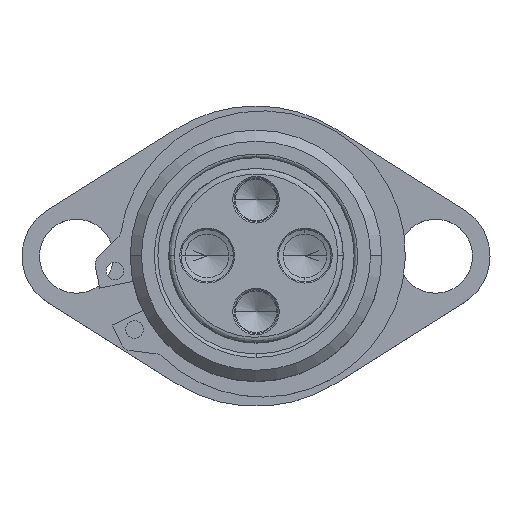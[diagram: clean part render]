
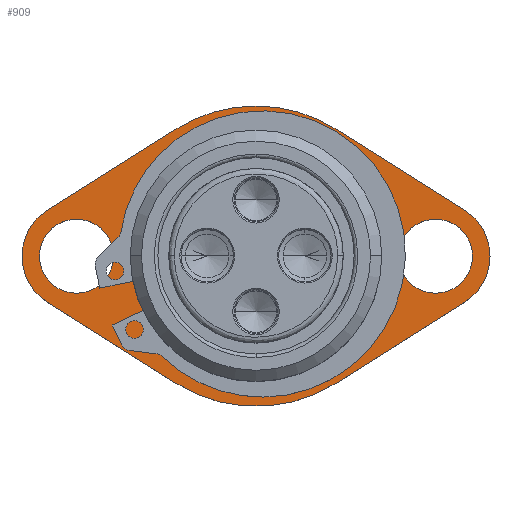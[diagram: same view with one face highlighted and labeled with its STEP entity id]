
A CAD part, top view. The second image highlights one B-rep face of the part: STEP entity #909.
In plain terms, the highlighted planar face has unit normal (0, 0, 1) as drawn and (0, 1, 0) by its records, which use the part's own axes.
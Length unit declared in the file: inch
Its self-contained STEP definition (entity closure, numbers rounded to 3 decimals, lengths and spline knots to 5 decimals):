
#22 = DIRECTION ( 'NONE',  ( 0., -1., 0. ) ) ;
#44 = VERTEX_POINT ( 'NONE', #278 ) ;
#52 = VERTEX_POINT ( 'NONE', #2459 ) ;
#103 = CARTESIAN_POINT ( 'NONE',  ( -1.4929, 0.25, -0.32997 ) ) ;
#200 = AXIS2_PLACEMENT_3D ( 'NONE', #2614, #1163, #3298 ) ;
#246 = ORIENTED_EDGE ( 'NONE', *, *, #4435, .F. ) ;
#278 = CARTESIAN_POINT ( 'NONE',  ( 1.285, 0.25, -0.265 ) ) ;
#306 = CARTESIAN_POINT ( 'NONE',  ( -1.285, 0.25, 0. ) ) ;
#320 = DIRECTION ( 'NONE',  ( 0., 0., -1. ) ) ;
#332 = DIRECTION ( 'NONE',  ( 0., -1., 0. ) ) ;
#343 = CIRCLE ( 'NONE', #709, 0.265 ) ;
#441 = EDGE_CURVE ( 'NONE', #2043, #4211, #343, .T. ) ;
#514 = AXIS2_PLACEMENT_3D ( 'NONE', #1565, #4086, #1579 ) ;
#534 = CARTESIAN_POINT ( 'NONE',  ( 0., 0.25, 0. ) ) ;
#582 = CARTESIAN_POINT ( 'NONE',  ( 0.57305, 0.25, -0.90952 ) ) ;
#588 = AXIS2_PLACEMENT_3D ( 'NONE', #2363, #3390, #3409 ) ;
#694 = CARTESIAN_POINT ( 'NONE',  ( -1.4929, 0.25, 0.32997 ) ) ;
#709 = AXIS2_PLACEMENT_3D ( 'NONE', #306, #4201, #2805 ) ;
#718 = DIRECTION ( 'NONE',  ( 0., 0., -1. ) ) ;
#826 = ORIENTED_EDGE ( 'NONE', *, *, #2512, .F. ) ;
#834 = VERTEX_POINT ( 'NONE', #694 ) ;
#848 = VERTEX_POINT ( 'NONE', #3340 ) ;
#860 = CIRCLE ( 'NONE', #514, 0.9 ) ;
#864 = CARTESIAN_POINT ( 'NONE',  ( 1.285, 0.25, 0. ) ) ;
#900 = EDGE_CURVE ( 'NONE', #2179, #3448, #3912, .T. ) ;
#909 = ADVANCED_FACE ( 'NONE', ( #4089, #2294, #1228, #1108 ), #3665, .T. ) ;
#910 = CARTESIAN_POINT ( 'NONE',  ( 1.4929, 0.25, 0.32997 ) ) ;
#961 = CIRCLE ( 'NONE', #2622, 0.39 ) ;
#1019 = LINE ( 'NONE', #3854, #2472 ) ;
#1023 = CARTESIAN_POINT ( 'NONE',  ( -1.285, 0.25, 0. ) ) ;
#1084 = CARTESIAN_POINT ( 'NONE',  ( 0., 0.25, 0. ) ) ;
#1087 = CIRCLE ( 'NONE', #4626, 0.265 ) ;
#1108 = FACE_BOUND ( 'NONE', #1866, .T. ) ;
#1141 = DIRECTION ( 'NONE',  ( 0., -1., 0. ) ) ;
#1163 = DIRECTION ( 'NONE',  ( 0., 1., 0. ) ) ;
#1190 = DIRECTION ( 'NONE',  ( 0., -1., 0. ) ) ;
#1212 = VECTOR ( 'NONE', #3900, 39.37008 ) ;
#1228 = FACE_BOUND ( 'NONE', #2970, .T. ) ;
#1284 = ORIENTED_EDGE ( 'NONE', *, *, #441, .T. ) ;
#1319 = DIRECTION ( 'NONE',  ( 0., 0., -1. ) ) ;
#1387 = CIRCLE ( 'NONE', #3337, 1.075 ) ;
#1471 = VERTEX_POINT ( 'NONE', #582 ) ;
#1478 = DIRECTION ( 'NONE',  ( 0.846, 0., -0.533 ) ) ;
#1548 = CARTESIAN_POINT ( 'NONE',  ( 0., 0.25, 0. ) ) ;
#1553 = VERTEX_POINT ( 'NONE', #2801 ) ;
#1554 = CIRCLE ( 'NONE', #2747, 1.075 ) ;
#1563 = EDGE_CURVE ( 'NONE', #834, #4071, #2426, .T. ) ;
#1565 = CARTESIAN_POINT ( 'NONE',  ( 0., 0.25, 0. ) ) ;
#1575 = LINE ( 'NONE', #3950, #1668 ) ;
#1579 = DIRECTION ( 'NONE',  ( 0., 0., -1. ) ) ;
#1588 = DIRECTION ( 'NONE',  ( 0., 0., -1. ) ) ;
#1595 = CIRCLE ( 'NONE', #2099, 0.39 ) ;
#1621 = ORIENTED_EDGE ( 'NONE', *, *, #2238, .T. ) ;
#1644 = VERTEX_POINT ( 'NONE', #1843 ) ;
#1648 = ORIENTED_EDGE ( 'NONE', *, *, #900, .T. ) ;
#1668 = VECTOR ( 'NONE', #1478, 39.37008 ) ;
#1700 = ORIENTED_EDGE ( 'NONE', *, *, #4112, .F. ) ;
#1828 = ORIENTED_EDGE ( 'NONE', *, *, #2580, .T. ) ;
#1843 = CARTESIAN_POINT ( 'NONE',  ( 0., 0.25, 0.9 ) ) ;
#1866 = EDGE_LOOP ( 'NONE', ( #3346, #1828 ) ) ;
#1899 = DIRECTION ( 'NONE',  ( 0., -1., 0. ) ) ;
#1928 = ORIENTED_EDGE ( 'NONE', *, *, #3486, .T. ) ;
#1960 = EDGE_CURVE ( 'NONE', #834, #3448, #1595, .T. ) ;
#1966 = DIRECTION ( 'NONE',  ( 0., 0., -1. ) ) ;
#2043 = VERTEX_POINT ( 'NONE', #2460 ) ;
#2048 = EDGE_LOOP ( 'NONE', ( #1284, #2109 ) ) ;
#2099 = AXIS2_PLACEMENT_3D ( 'NONE', #1023, #332, #4272 ) ;
#2109 = ORIENTED_EDGE ( 'NONE', *, *, #3451, .T. ) ;
#2122 = CARTESIAN_POINT ( 'NONE',  ( -1.4929, 0.25, -0.32997 ) ) ;
#2149 = CIRCLE ( 'NONE', #3426, 0.265 ) ;
#2160 = VERTEX_POINT ( 'NONE', #3738 ) ;
#2169 = EDGE_LOOP ( 'NONE', ( #4364, #1648, #3141, #2604, #826, #1928, #1700, #3464, #246 ) ) ;
#2179 = VERTEX_POINT ( 'NONE', #3438 ) ;
#2194 = CARTESIAN_POINT ( 'NONE',  ( -1.285, 0.25, 0.265 ) ) ;
#2208 = CARTESIAN_POINT ( 'NONE',  ( 0., 0.25, -0.9 ) ) ;
#2218 = EDGE_CURVE ( 'NONE', #3620, #1644, #860, .T. ) ;
#2238 = EDGE_CURVE ( 'NONE', #44, #1553, #2149, .T. ) ;
#2273 = DIRECTION ( 'NONE',  ( -0.846, 0., 0.533 ) ) ;
#2294 = FACE_OUTER_BOUND ( 'NONE', #2169, .T. ) ;
#2298 = DIRECTION ( 'NONE',  ( 0., 0., -1. ) ) ;
#2363 = CARTESIAN_POINT ( 'NONE',  ( 0., 0.25, 0. ) ) ;
#2389 = DIRECTION ( 'NONE',  ( -0.846, 0., -0.533 ) ) ;
#2426 = LINE ( 'NONE', #3535, #1212 ) ;
#2459 = CARTESIAN_POINT ( 'NONE',  ( 0., 0.25, -1.075 ) ) ;
#2460 = CARTESIAN_POINT ( 'NONE',  ( -1.285, 0.25, -0.265 ) ) ;
#2472 = VECTOR ( 'NONE', #2389, 39.37008 ) ;
#2512 = EDGE_CURVE ( 'NONE', #2160, #4071, #1387, .T. ) ;
#2537 = AXIS2_PLACEMENT_3D ( 'NONE', #3589, #22, #320 ) ;
#2580 = EDGE_CURVE ( 'NONE', #1644, #3620, #3234, .T. ) ;
#2604 = ORIENTED_EDGE ( 'NONE', *, *, #1563, .T. ) ;
#2614 = CARTESIAN_POINT ( 'NONE',  ( -1.285, 0.25, 0. ) ) ;
#2621 = EDGE_CURVE ( 'NONE', #2179, #52, #1554, .T. ) ;
#2622 = AXIS2_PLACEMENT_3D ( 'NONE', #4299, #3939, #718 ) ;
#2639 = EDGE_CURVE ( 'NONE', #848, #1471, #1019, .T. ) ;
#2702 = CIRCLE ( 'NONE', #3433, 1.075 ) ;
#2747 = AXIS2_PLACEMENT_3D ( 'NONE', #534, #3469, #1319 ) ;
#2801 = CARTESIAN_POINT ( 'NONE',  ( 1.285, 0.25, 0.265 ) ) ;
#2805 = DIRECTION ( 'NONE',  ( 0., 0., -1. ) ) ;
#2967 = VECTOR ( 'NONE', #2273, 39.37008 ) ;
#2970 = EDGE_LOOP ( 'NONE', ( #1621, #3751 ) ) ;
#3141 = ORIENTED_EDGE ( 'NONE', *, *, #1960, .F. ) ;
#3234 = CIRCLE ( 'NONE', #588, 0.9 ) ;
#3298 = DIRECTION ( 'NONE',  ( 0., 0., 1. ) ) ;
#3337 = AXIS2_PLACEMENT_3D ( 'NONE', #1548, #1899, #1588 ) ;
#3340 = CARTESIAN_POINT ( 'NONE',  ( 1.4929, 0.25, -0.32997 ) ) ;
#3346 = ORIENTED_EDGE ( 'NONE', *, *, #2218, .T. ) ;
#3390 = DIRECTION ( 'NONE',  ( 0., -1., 0. ) ) ;
#3409 = DIRECTION ( 'NONE',  ( 0., 0., -1. ) ) ;
#3426 = AXIS2_PLACEMENT_3D ( 'NONE', #864, #1190, #2298 ) ;
#3433 = AXIS2_PLACEMENT_3D ( 'NONE', #1084, #1141, #3583 ) ;
#3438 = CARTESIAN_POINT ( 'NONE',  ( -0.57305, 0.25, -0.90952 ) ) ;
#3448 = VERTEX_POINT ( 'NONE', #2122 ) ;
#3451 = EDGE_CURVE ( 'NONE', #4211, #2043, #4507, .T. ) ;
#3464 = ORIENTED_EDGE ( 'NONE', *, *, #2639, .T. ) ;
#3469 = DIRECTION ( 'NONE',  ( 0., -1., 0. ) ) ;
#3486 = EDGE_CURVE ( 'NONE', #2160, #4141, #1575, .T. ) ;
#3535 = CARTESIAN_POINT ( 'NONE',  ( -1.4929, 0.25, 0.32997 ) ) ;
#3583 = DIRECTION ( 'NONE',  ( 0., 0., -1. ) ) ;
#3589 = CARTESIAN_POINT ( 'NONE',  ( -1.285, 0.25, 0. ) ) ;
#3620 = VERTEX_POINT ( 'NONE', #2208 ) ;
#3665 = PLANE ( 'NONE',  #200 ) ;
#3738 = CARTESIAN_POINT ( 'NONE',  ( 0.57305, 0.25, 0.90952 ) ) ;
#3751 = ORIENTED_EDGE ( 'NONE', *, *, #4687, .T. ) ;
#3854 = CARTESIAN_POINT ( 'NONE',  ( 0.57305, 0.25, -0.90952 ) ) ;
#3900 = DIRECTION ( 'NONE',  ( 0.846, 0., 0.533 ) ) ;
#3912 = LINE ( 'NONE', #103, #2967 ) ;
#3939 = DIRECTION ( 'NONE',  ( 0., -1., 0. ) ) ;
#3950 = CARTESIAN_POINT ( 'NONE',  ( 0.57305, 0.25, 0.90952 ) ) ;
#4071 = VERTEX_POINT ( 'NONE', #4485 ) ;
#4086 = DIRECTION ( 'NONE',  ( 0., -1., 0. ) ) ;
#4089 = FACE_BOUND ( 'NONE', #2048, .T. ) ;
#4101 = CARTESIAN_POINT ( 'NONE',  ( 1.285, 0.25, 0. ) ) ;
#4112 = EDGE_CURVE ( 'NONE', #848, #4141, #961, .T. ) ;
#4141 = VERTEX_POINT ( 'NONE', #910 ) ;
#4142 = DIRECTION ( 'NONE',  ( 0., -1., 0. ) ) ;
#4201 = DIRECTION ( 'NONE',  ( 0., -1., 0. ) ) ;
#4211 = VERTEX_POINT ( 'NONE', #2194 ) ;
#4272 = DIRECTION ( 'NONE',  ( 0., 0., -1. ) ) ;
#4299 = CARTESIAN_POINT ( 'NONE',  ( 1.285, 0.25, 0. ) ) ;
#4364 = ORIENTED_EDGE ( 'NONE', *, *, #2621, .F. ) ;
#4435 = EDGE_CURVE ( 'NONE', #52, #1471, #2702, .T. ) ;
#4485 = CARTESIAN_POINT ( 'NONE',  ( -0.57305, 0.25, 0.90952 ) ) ;
#4507 = CIRCLE ( 'NONE', #2537, 0.265 ) ;
#4626 = AXIS2_PLACEMENT_3D ( 'NONE', #4101, #4142, #1966 ) ;
#4687 = EDGE_CURVE ( 'NONE', #1553, #44, #1087, .T. ) ;
